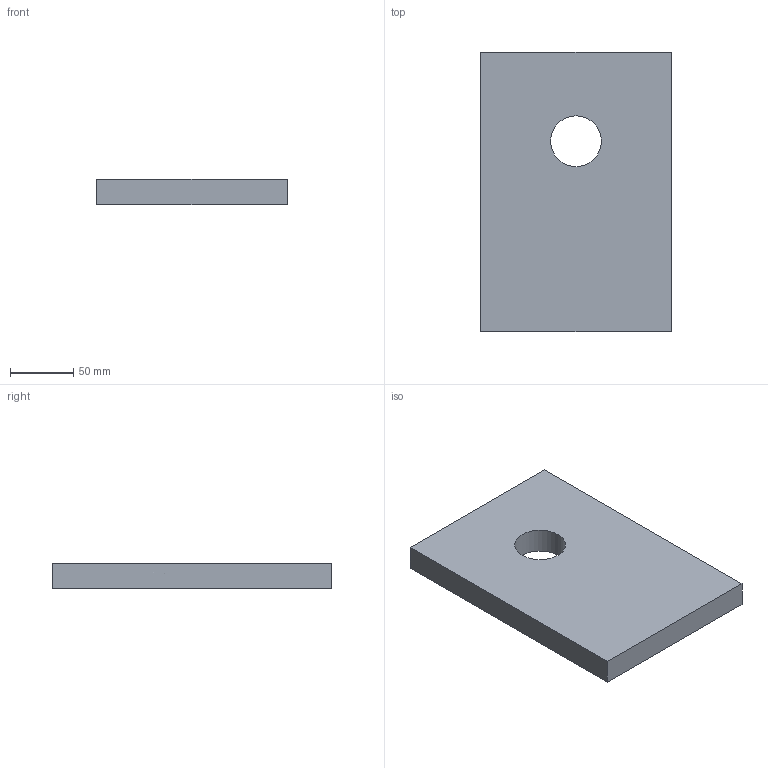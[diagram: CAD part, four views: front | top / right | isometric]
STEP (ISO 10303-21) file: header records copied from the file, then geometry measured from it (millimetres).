
FILE_DESCRIPTION(('Open CASCADE Model'),'2;1');
FILE_NAME('Open CASCADE Shape Model','2026-10-19T10:09:20',('Author'),( 'Open CASCADE'),'Open CASCADE STEP processor 8.0','Open CASCADE 8.0' ,'Unknown');
FILE_SCHEMA(('AUTOMOTIVE_DESIGN { 1 0 10303 214 1 1 1 1 }'));
Length unit declared in the file: millimetre
Products named in the file (1): OREJA_CENTRAL_150x220x20 51
Bounding box: 150 x 220 x 20 mm (x, y, z)
Volume: 634867.3 mm3; surface area: 80800 mm2
Topology: 1 solids, 1 shells, 7 faces, 15 edges, 10 vertices
Faces by surface type: plane 6, cylinder 1
Full cylindrical faces by diameter (mm): 40 x1
Entity records: 400 total; most frequent: CARTESIAN_POINT 63, DIRECTION 63, LINE 41, VECTOR 41, ORIENTED_EDGE 30, PCURVE 30, DEFINITIONAL_REPRESENTATION 30, EDGE_CURVE 15
